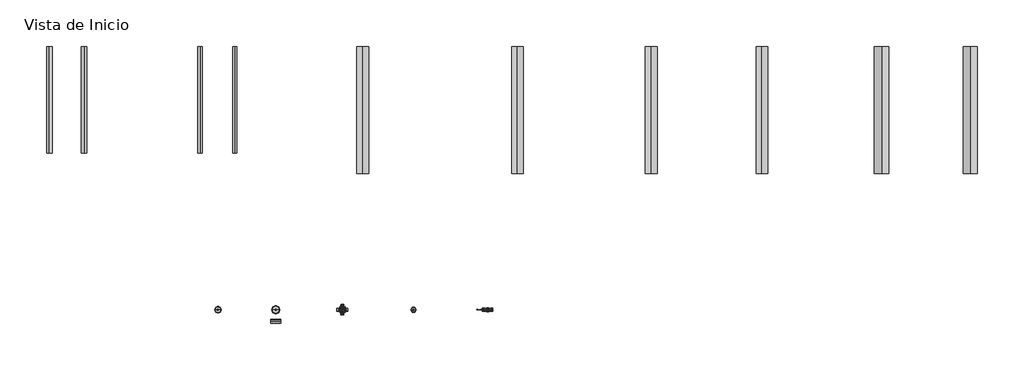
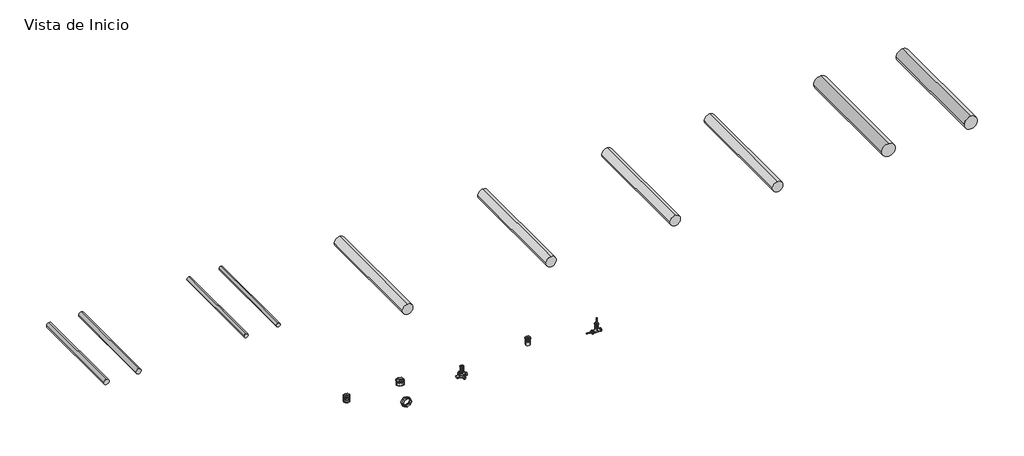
# One storey, incomplete: 12 pipe fittings, 10 pipe segments.
"""IFC4 building model written with IfcOpenShell, lengths in millimetres."""

from ifc_helpers import new_model, si_unit, point, frame, frame_2d, origin, place, context, project, spatial, circle_curve, trimmed, segment, composite_curve, outline, extrude, transform, mapped, element, save
from components import pipe_fitting_d91df425, pipe_fitting_ceb8de90, pipe_fitting_b7bcc274, var_5ea33b43, var_a52b8fc5, var_7f51d020, var_270639b3, var_83fec077, var_27db69a4, var_ec80d9ff, var_23e399f1

model = new_model("IFC4")

# Units and contexts
model_context = context("Model", 3, world=origin())
ifc_project = project(units=[si_unit("LENGTHUNIT", "METRE", prefix="MILLI")], contexts=[model_context])

# Site, building, storey
site = spatial("IfcSite", under=ifc_project)
building = spatial("IfcBuilding", under=site)
storey = spatial("IfcBuildingStorey", under=building, Name="Vista de Inicio", Elevation=0.0)

# Pipe fittings
placement = place(None, origin())
pipe_fitting_shape = pipe_fitting_d91df425(model_context)
element("IfcPipeFitting", 1, ObjectType="AmancoWavin_ConexõesdeTubos_SaneamentoEsgotoNãoUsarProlongamento : Novafort", at=placement, inside=storey, context=model_context, shape_type="MappedRepresentation", body=[
    mapped(pipe_fitting_shape, transform((-19906.9784552, -13760.2474132, 140.0036125), x_axis=(1.0, 0.0, 0.0), y_axis=(0.0, 1.0, 0.0), z_axis=(0.0, 0.0, 1.0))),
])
pipe_fitting_2_shape = pipe_fitting_ceb8de90(model_context)
element("IfcPipeFitting", 2, ObjectType="AmancoWavin_ConexõesdeTubos_SaneamentoEsgotoNãoUsarProlongamento : Novafort", at=placement, inside=storey, context=model_context, shape_type="MappedRepresentation", body=[
    mapped(pipe_fitting_2_shape, transform((-17446.9784552, -13760.2474132, 355.9355339), x_axis=(-1.0, 0.0, 0.0), y_axis=(0.0, -1.0, 0.0), z_axis=(0.0, 0.0, 1.0))),
])
pipe_fitting_3_shape = pipe_fitting_b7bcc274(model_context)
element("IfcPipeFitting", 3, ObjectType="AmancoWavin_ConexõesdeTubos_SaneamentoEsgotoNãoUsarProlongamento : Novafort", at=placement, inside=storey, context=model_context, shape_type="MappedRepresentation", body=[
    mapped(pipe_fitting_3_shape, transform((-14877.541442, -13760.2474132, 123.6432587), x_axis=(-1.0, 0.0, 0.0), y_axis=(0.0, -1.0, 0.0), z_axis=(0.0, 0.0, 1.0))),
])
var_shape = var_5ea33b43(model_context)
element("IfcPipeFitting", 4, ObjectType="AmancoWavin_ConexõesdeTubos_SaneamentoEsgotoNãoUsarTampãoparaTIL : var.", at=placement, inside=storey, context=model_context, shape_type="MappedRepresentation", body=[
    mapped(var_shape, transform((-22216.9784552, -13760.2474132, 469.0), x_axis=(-1.0, 0.0, 0.0), y_axis=(0.0, -1.0, 0.0), z_axis=(0.0, 0.0, 1.0))),
])
var_2_shape = var_a52b8fc5(model_context)
element("IfcPipeFitting", 5, ObjectType="AmancoWavin_ConexõesdeTubos_SaneamentoEsgotoNãoUsarBolsa : var.", at=placement, inside=storey, context=model_context, shape_type="MappedRepresentation", body=[
    mapped(var_2_shape, transform((-22216.9784552, -14097.5479051, 0.0), x_axis=(0.0, 1.0, 0.0), y_axis=(-1.0, 0.0, 0.0), z_axis=(0.0, 0.0, 1.0))),
])
var_3_shape = var_7f51d020(model_context)
element("IfcPipeFitting", 6, ObjectType="AmancoWavin_ConexõesdeTubos_ColetoresTILdeligaçãoDN101.6XDN110 : var.", at=placement, inside=storey, context=model_context, shape_type="MappedRepresentation", body=[
    mapped(var_3_shape, transform((-14877.541442, -13760.2474132, 0.0), x_axis=(1.0, 0.0, 0.0), y_axis=(0.0, 1.0, 0.0), z_axis=(0.0, 0.0, 1.0))),
])
var_4_shape = var_270639b3(model_context)
element("IfcPipeFitting", 7, ObjectType="AmancoWavin_ConexõesdeTubos_SaneamentoEsgotoNãoUsarProlongamento : var.", at=placement, inside=storey, context=model_context, shape_type="MappedRepresentation", body=[
    mapped(var_4_shape, transform((-24216.9784552, -13760.2474132, 490.0), x_axis=(1.0, 0.0, 0.0), y_axis=(0.0, 1.0, 0.0), z_axis=(0.0, 0.0, 1.0))),
])
var_5_shape = var_83fec077(model_context)
element("IfcPipeFitting", 8, ObjectType="AmancoWavin_ConexõesdeTubos_ColetoresTILcondominalDN100-3entradas : var.", at=placement, inside=storey, context=model_context, shape_type="MappedRepresentation", body=[
    mapped(var_5_shape, transform((-19906.9784552, -13760.2474132, 0.0), x_axis=(-1.0, 0.0, 0.0), y_axis=(0.0, -1.0, 0.0), z_axis=(0.0, 0.0, 1.0))),
])
var_6_shape = var_27db69a4(model_context)
element("IfcPipeFitting", 9, ObjectType="AmancoWavin_ConexõesdeTubos_SaneamentoEsgotoNãoUsarTampãoparaTIL : var.", at=placement, inside=storey, context=model_context, shape_type="MappedRepresentation", body=[
    mapped(var_6_shape, transform((-24216.9784552, -13760.2474132, 587.3847612), x_axis=(-1.0, 0.0, 0.0), y_axis=(0.0, -1.0, 0.0), z_axis=(0.0, 0.0, 1.0))),
])
var_7_shape = var_ec80d9ff(model_context)
element("IfcPipeFitting", 10, ObjectType="AmancoWavin_ConexõesdeTubos_SaneamentoEsgotoNãoUsarTampãoparaTIL : var.", at=placement, inside=storey, context=model_context, shape_type="MappedRepresentation", body=[
    mapped(var_7_shape, transform((-19906.9784552, -13760.2474132, 256.0630887), x_axis=(-1.0, 0.0, 0.0), y_axis=(0.0, -1.0, 0.0), z_axis=(0.0, 0.0, 1.0))),
])
element("IfcPipeFitting", 11, ObjectType="AmancoWavin_ConexõesdeTubos_SaneamentoEsgotoNãoUsarTampãoparaTIL : var.", at=placement, inside=storey, context=model_context, shape_type="MappedRepresentation", body=[
    mapped(var_7_shape, transform((-14877.541442, -13760.2474132, 183.6472009), x_axis=(1.0, 0.0, 0.0), y_axis=(0.0, 1.0, 0.0), z_axis=(0.0, 0.0, 1.0))),
])
var_8_shape = var_23e399f1(model_context)
element("IfcPipeFitting", 12, ObjectType="AmancoWavin_ConexõesdeTubos_SaneamentoEsgotoNãoUsarTampãoparaTIL : var.", at=placement, inside=storey, context=model_context, shape_type="MappedRepresentation", body=[
    mapped(var_8_shape, transform((-17446.9784552, -13760.2474132, 502.819973), x_axis=(1.0, 0.0, 0.0), y_axis=(0.0, 1.0, 0.0), z_axis=(0.0, 0.0, 1.0))),
])

# Pipe segments
element("IfcPipeSegment", 13, ObjectType="AmancoWavin Novafort GD-SN4 300 a 1000 mm", at=placement, inside=storey, context=model_context, shape_type="SweptSolid", body=[
    extrude(outline(composite_curve([segment(trimmed(circle_curve(frame_2d((-500.0, -1236.9784552)), 249.5), [point((-500.0, -1486.4784552))], [point((-749.5, -1236.9784552))], False, "CARTESIAN"), True, "CONTINUOUS"), segment(trimmed(circle_curve(frame_2d((-500.0, -1236.9784552)), 249.5), [point((-749.5, -1236.9784552))], [point((-500.0, -987.4784552))], False, "CARTESIAN"), True, "CONTINUOUS"), segment(trimmed(circle_curve(frame_2d((-500.0, -1236.9784552)), 249.5), [point((-500.0, -987.4784552))], [point((-250.5, -1236.9784552))], False, "CARTESIAN"), True, "CONTINUOUS"), segment(trimmed(circle_curve(frame_2d((-500.0, -1236.9784552)), 249.5), [point((-250.5, -1236.9784552))], [point((-500.0, -1486.4784552))], False, "CARTESIAN"), True, "CONTINUOUS")], self_intersect=False)), frame((0.0, -9030.0638423, 0.0), z_axis=(0.0, 1.0, 0.0), x_axis=(0.0, 0.0, 1.0)), (0.0, 0.0, 1.0), 4400.0),
])
element("IfcPipeSegment", 14, ObjectType="AmancoWavin Novafort GD-SN8 500mm", at=placement, inside=storey, context=model_context, shape_type="SweptSolid", body=[
    extrude(outline(composite_curve([segment(trimmed(circle_curve(frame_2d((-500.0, 1836.1191056)), 249.5), [point((-500.0, 1586.6191056))], [point((-749.5, 1836.1191056))], False, "CARTESIAN"), True, "CONTINUOUS"), segment(trimmed(circle_curve(frame_2d((-500.0, 1836.1191056)), 249.5), [point((-749.5, 1836.1191056))], [point((-500.0, 2085.6191056))], False, "CARTESIAN"), True, "CONTINUOUS"), segment(trimmed(circle_curve(frame_2d((-500.0, 1836.1191056)), 249.5), [point((-500.0, 2085.6191056))], [point((-250.5, 1836.1191056))], False, "CARTESIAN"), True, "CONTINUOUS"), segment(trimmed(circle_curve(frame_2d((-500.0, 1836.1191056)), 249.5), [point((-250.5, 1836.1191056))], [point((-500.0, 1586.6191056))], False, "CARTESIAN"), True, "CONTINUOUS")], self_intersect=False)), frame((0.0, -9030.0638423, 0.0), z_axis=(0.0, 1.0, 0.0), x_axis=(0.0, 0.0, 1.0)), (0.0, 0.0, 1.0), 4400.0),
])
element("IfcPipeSegment", 15, ObjectType="AmancoWavin Coletor Corrugado-SN4 150 a 400mm", at=placement, inside=storey, context=model_context, shape_type="SweptSolid", body=[
    extrude(outline(composite_curve([segment(trimmed(circle_curve(frame_2d((-500.0, -5380.4227951)), 200.0), [point((-500.0, -5180.4227951))], [point((-300.0, -5380.4227951))], False, "CARTESIAN"), True, "CONTINUOUS"), segment(trimmed(circle_curve(frame_2d((-500.0, -5380.4227951)), 200.0), [point((-300.0, -5380.4227951))], [point((-500.0, -5580.4227951))], False, "CARTESIAN"), True, "CONTINUOUS"), segment(trimmed(circle_curve(frame_2d((-500.0, -5380.4227951)), 200.0), [point((-500.0, -5580.4227951))], [point((-700.0, -5380.4227951))], False, "CARTESIAN"), True, "CONTINUOUS"), segment(trimmed(circle_curve(frame_2d((-500.0, -5380.4227951)), 200.0), [point((-700.0, -5380.4227951))], [point((-500.0, -5180.4227951))], False, "CARTESIAN"), True, "CONTINUOUS")], self_intersect=False)), frame((0.0, -9030.0638423, 0.0), z_axis=(0.0, 1.0, 0.0), x_axis=(0.0, 0.0, 1.0)), (0.0, 0.0, 1.0), 4400.0),
])
element("IfcPipeSegment", 16, ObjectType="AmancoWavin Coletor Corrugado-SN8 150 a 400mm", at=placement, inside=storey, context=model_context, shape_type="SweptSolid", body=[
    extrude(outline(composite_curve([segment(trimmed(circle_curve(frame_2d((-500.0, -9211.2827555)), 200.0), [point((-500.0, -9011.2827555))], [point((-300.0, -9211.2827555))], False, "CARTESIAN"), True, "CONTINUOUS"), segment(trimmed(circle_curve(frame_2d((-500.0, -9211.2827555)), 200.0), [point((-300.0, -9211.2827555))], [point((-500.0, -9411.2827555))], False, "CARTESIAN"), True, "CONTINUOUS"), segment(trimmed(circle_curve(frame_2d((-500.0, -9211.2827555)), 200.0), [point((-500.0, -9411.2827555))], [point((-700.0, -9211.2827555))], False, "CARTESIAN"), True, "CONTINUOUS"), segment(trimmed(circle_curve(frame_2d((-500.0, -9211.2827555)), 200.0), [point((-700.0, -9211.2827555))], [point((-500.0, -9011.2827555))], False, "CARTESIAN"), True, "CONTINUOUS")], self_intersect=False)), frame((0.0, -9030.0638423, 0.0), z_axis=(0.0, 1.0, 0.0), x_axis=(0.0, 0.0, 1.0)), (0.0, 0.0, 1.0), 4400.0),
])
element("IfcPipeSegment", 17, ObjectType="AmancoWavin Coletor Maciço-100 a 400mm", at=placement, inside=storey, context=model_context, shape_type="SweptSolid", body=[
    extrude(outline(composite_curve([segment(trimmed(circle_curve(frame_2d((-500.0, -13846.1503618)), 200.0), [point((-500.0, -13646.1503618))], [point((-300.0, -13846.1503618))], False, "CARTESIAN"), True, "CONTINUOUS"), segment(trimmed(circle_curve(frame_2d((-500.0, -13846.1503618)), 200.0), [point((-300.0, -13846.1503618))], [point((-500.0, -14046.1503618))], False, "CARTESIAN"), True, "CONTINUOUS"), segment(trimmed(circle_curve(frame_2d((-500.0, -13846.1503618)), 200.0), [point((-500.0, -14046.1503618))], [point((-700.0, -13846.1503618))], False, "CARTESIAN"), True, "CONTINUOUS"), segment(trimmed(circle_curve(frame_2d((-500.0, -13846.1503618)), 200.0), [point((-700.0, -13846.1503618))], [point((-500.0, -13646.1503618))], False, "CARTESIAN"), True, "CONTINUOUS")], self_intersect=False)), frame((0.0, -9030.0638423, 0.0), z_axis=(0.0, 1.0, 0.0), x_axis=(0.0, 0.0, 1.0)), (0.0, 0.0, 1.0), 4400.0),
])
element("IfcPipeSegment", 18, ObjectType="AmancoWavin Coletor Celular-150 a 400mm", at=placement, inside=storey, context=model_context, shape_type="SweptSolid", body=[
    extrude(outline(composite_curve([segment(trimmed(circle_curve(frame_2d((-500.0, -19203.6040752)), 200.0), [point((-500.0, -19003.6040752))], [point((-300.0, -19203.6040752))], False, "CARTESIAN"), True, "CONTINUOUS"), segment(trimmed(circle_curve(frame_2d((-500.0, -19203.6040752)), 200.0), [point((-300.0, -19203.6040752))], [point((-500.0, -19403.6040752))], False, "CARTESIAN"), True, "CONTINUOUS"), segment(trimmed(circle_curve(frame_2d((-500.0, -19203.6040752)), 200.0), [point((-500.0, -19403.6040752))], [point((-700.0, -19203.6040752))], False, "CARTESIAN"), True, "CONTINUOUS"), segment(trimmed(circle_curve(frame_2d((-500.0, -19203.6040752)), 200.0), [point((-700.0, -19203.6040752))], [point((-500.0, -19003.6040752))], False, "CARTESIAN"), True, "CONTINUOUS")], self_intersect=False)), frame((0.0, -9030.0638423, 0.0), z_axis=(0.0, 1.0, 0.0), x_axis=(0.0, 0.0, 1.0)), (0.0, 0.0, 1.0), 4400.0),
])
element("IfcPipeSegment", 19, ObjectType="Amanco Wavin Esgoto Série Normal SEM Bolsa", at=placement, inside=storey, context=model_context, shape_type="SweptSolid", body=[
    extrude(outline(composite_curve([segment(trimmed(circle_curve(frame_2d((0.0, -30054.1990657)), 100.0), [point((0.0, -30154.1990657))], [point((-100.0, -30054.1990657))], False, "CARTESIAN"), True, "CONTINUOUS"), segment(trimmed(circle_curve(frame_2d((0.0, -30054.1990657)), 100.0), [point((-100.0, -30054.1990657))], [point((0.0, -29954.1990657))], False, "CARTESIAN"), True, "CONTINUOUS"), segment(trimmed(circle_curve(frame_2d((0.0, -30054.1990657)), 100.0), [point((0.0, -29954.1990657))], [point((100.0, -30054.1990657))], False, "CARTESIAN"), True, "CONTINUOUS"), segment(trimmed(circle_curve(frame_2d((0.0, -30054.1990657)), 100.0), [point((100.0, -30054.1990657))], [point((0.0, -30154.1990657))], False, "CARTESIAN"), True, "CONTINUOUS")], self_intersect=False)), frame((0.0, -8330.0638423, 0.0), z_axis=(0.0, 1.0, 0.0), x_axis=(0.0, 0.0, 1.0)), (0.0, 0.0, 1.0), 3700.0),
])
element("IfcPipeSegment", 20, ObjectType="Amanco Wavin Esgoto Série Normal COM Bolsa", at=placement, inside=storey, context=model_context, shape_type="SweptSolid", body=[
    extrude(outline(composite_curve([segment(trimmed(circle_curve(frame_2d((0.0, -28854.1990657)), 100.0), [point((0.0, -28954.1990657))], [point((-100.0, -28854.1990657))], False, "CARTESIAN"), True, "CONTINUOUS"), segment(trimmed(circle_curve(frame_2d((0.0, -28854.1990657)), 100.0), [point((-100.0, -28854.1990657))], [point((0.0, -28754.1990657))], False, "CARTESIAN"), True, "CONTINUOUS"), segment(trimmed(circle_curve(frame_2d((0.0, -28854.1990657)), 100.0), [point((0.0, -28754.1990657))], [point((100.0, -28854.1990657))], False, "CARTESIAN"), True, "CONTINUOUS"), segment(trimmed(circle_curve(frame_2d((0.0, -28854.1990657)), 100.0), [point((100.0, -28854.1990657))], [point((0.0, -28954.1990657))], False, "CARTESIAN"), True, "CONTINUOUS")], self_intersect=False)), frame((0.0, -8330.0638423, 0.0), z_axis=(0.0, 1.0, 0.0), x_axis=(0.0, 0.0, 1.0)), (0.0, 0.0, 1.0), 3700.0),
])
element("IfcPipeSegment", 21, ObjectType="Amanco Wavin Esgoto Série Reforçada COM Bolsa", at=placement, inside=storey, context=model_context, shape_type="SweptSolid", body=[
    extrude(outline(composite_curve([segment(trimmed(circle_curve(frame_2d((0.0, -23634.6090488)), 75.0), [point((0.0, -23709.6090488))], [point((-75.0, -23634.6090488))], False, "CARTESIAN"), True, "CONTINUOUS"), segment(trimmed(circle_curve(frame_2d((0.0, -23634.6090488)), 75.0), [point((-75.0, -23634.6090488))], [point((0.0, -23559.6090488))], False, "CARTESIAN"), True, "CONTINUOUS"), segment(trimmed(circle_curve(frame_2d((0.0, -23634.6090488)), 75.0), [point((0.0, -23559.6090488))], [point((75.0, -23634.6090488))], False, "CARTESIAN"), True, "CONTINUOUS"), segment(trimmed(circle_curve(frame_2d((0.0, -23634.6090488)), 75.0), [point((75.0, -23634.6090488))], [point((0.0, -23709.6090488))], False, "CARTESIAN"), True, "CONTINUOUS")], self_intersect=False)), frame((0.0, -8330.0638423, 0.0), z_axis=(0.0, 1.0, 0.0), x_axis=(0.0, 0.0, 1.0)), (0.0, 0.0, 1.0), 3700.0),
])
element("IfcPipeSegment", 22, ObjectType="Amanco Wavin Esgoto Série Reforçada SEM Bolsa", at=placement, inside=storey, context=model_context, shape_type="SweptSolid", body=[
    extrude(outline(composite_curve([segment(trimmed(circle_curve(frame_2d((0.0, -24834.6090488)), 75.0), [point((0.0, -24909.6090488))], [point((-75.0, -24834.6090488))], False, "CARTESIAN"), True, "CONTINUOUS"), segment(trimmed(circle_curve(frame_2d((0.0, -24834.6090488)), 75.0), [point((-75.0, -24834.6090488))], [point((0.0, -24759.6090488))], False, "CARTESIAN"), True, "CONTINUOUS"), segment(trimmed(circle_curve(frame_2d((0.0, -24834.6090488)), 75.0), [point((0.0, -24759.6090488))], [point((75.0, -24834.6090488))], False, "CARTESIAN"), True, "CONTINUOUS"), segment(trimmed(circle_curve(frame_2d((0.0, -24834.6090488)), 75.0), [point((75.0, -24834.6090488))], [point((0.0, -24909.6090488))], False, "CARTESIAN"), True, "CONTINUOUS")], self_intersect=False)), frame((0.0, -8330.0638423, 0.0), z_axis=(0.0, 1.0, 0.0), x_axis=(0.0, 0.0, 1.0)), (0.0, 0.0, 1.0), 3700.0),
])

save(model, "model.ifc")
